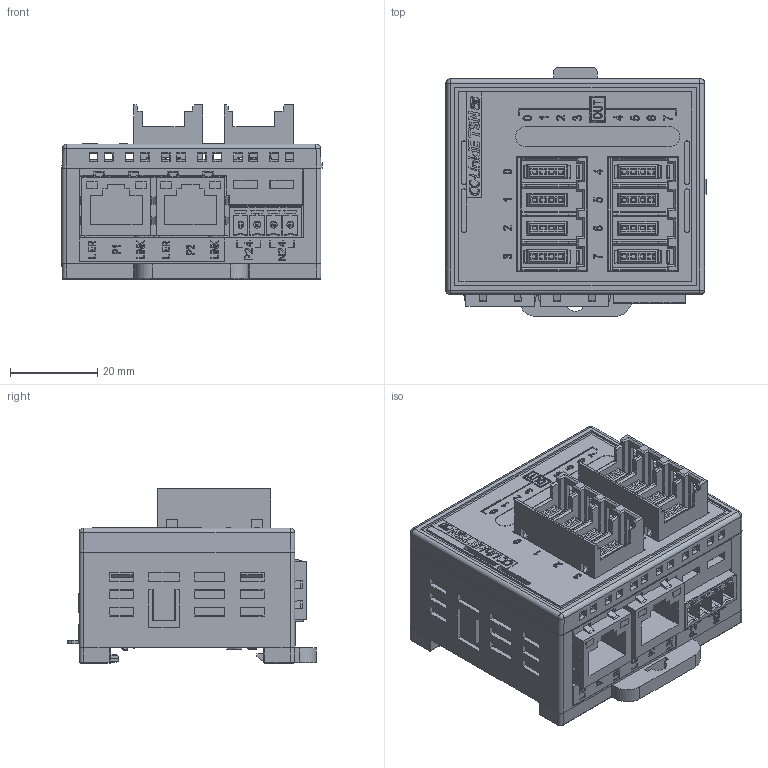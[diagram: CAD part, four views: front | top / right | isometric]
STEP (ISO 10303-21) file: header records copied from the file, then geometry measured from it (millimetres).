
FILE_DESCRIPTION((''),'2;1');
FILE_NAME('CTCEP08','2026-05-11T14:18:14',('gijyu181'),(''),'CREO PARAMETRIC BY PTC INC, 2018050','CREO PARAMETRIC BY PTC INC, 2018050','');
FILE_SCHEMA(('CONFIG_CONTROL_DESIGN','SHAPE_APPEARANCE_LAYERS_GROUPS'));
Products named in the file (1): CTCEP08
Bounding box: 59.75 x 57.15 x 40 mm (x, y, z)
Volume: 70223.9 mm3; surface area: 41026.6 mm2
Topology: 1 solids, 15 shells, 7429 faces, 21047 edges, 13927 vertices
Faces by surface type: plane 5791, cylinder 891, extrusion 633, sphere 44, torus 26, bspline 24, cone 20
Entity records: 301464 total; most frequent: CARTESIAN_POINT 51655, ORIENTED_EDGE 42066, DIRECTION 35432, EDGE_CURVE 21037, VECTOR 18130, LINE 17497, VERTEX_POINT 13927, PRESENTATION_STYLE_ASSIGNMENT 10906
